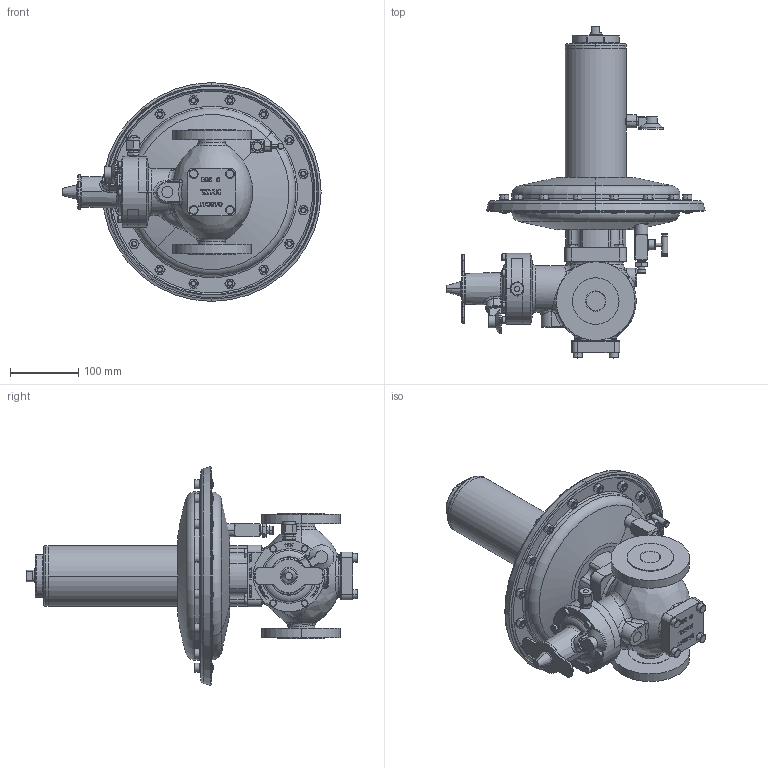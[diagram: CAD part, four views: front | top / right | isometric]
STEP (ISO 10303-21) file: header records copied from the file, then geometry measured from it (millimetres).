
FILE_DESCRIPTION((''),'2;1');
FILE_NAME('BRISE_1_SW0002-PN16','2018-03-21T',('jjunior'),(''),'PRO/ENGINEER BY PARAMETRIC TECHNOLOGY CORPORATION, 2010160','PRO/ENGINEER BY PARAMETRIC TECHNOLOGY CORPORATION, 2010160','');
FILE_SCHEMA(('CONFIG_CONTROL_DESIGN'));
Length unit declared in the file: millimetre
Products named in the file (1): BRISE_1_SW0002-PN16
Bounding box: 377.61 x 485.3 x 319.82 mm (x, y, z)
Volume: 2408608.4 mm3; surface area: 846621.6 mm2
Topology: 3 solids, 3 shells, 3068 faces, 7567 edges, 4697 vertices
Faces by surface type: plane 1501, cylinder 597, cone 494, torus 250, bspline 202, sphere 22, extrusion 2
Entity records: 120083 total; most frequent: CARTESIAN_POINT 48611, ORIENTED_EDGE 15106, DIRECTION 14500, EDGE_CURVE 7553, AXIS2_PLACEMENT_3D 5146, VERTEX_POINT 4697, VECTOR 4208, LINE 4206
